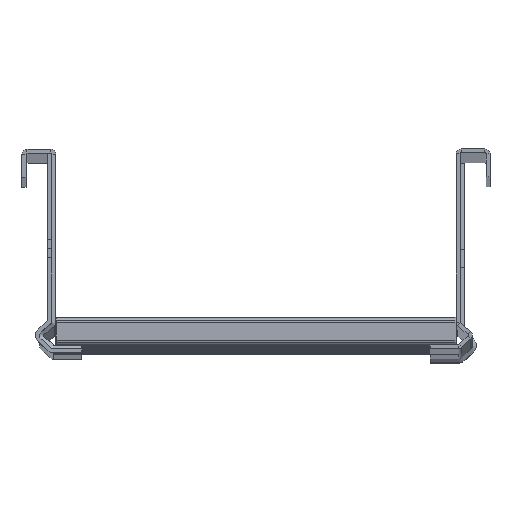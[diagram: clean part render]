
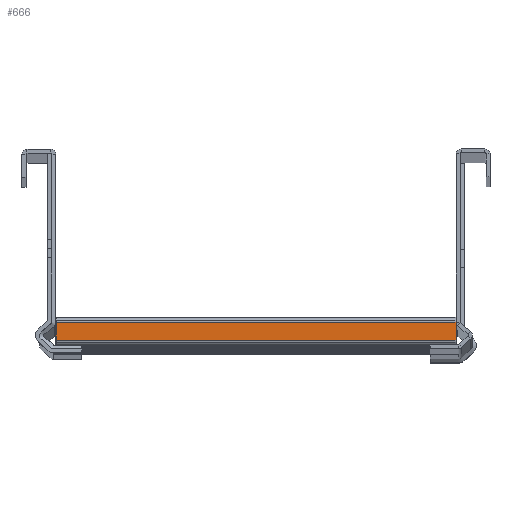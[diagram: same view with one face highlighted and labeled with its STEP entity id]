
A CAD part, top view. The second image highlights one B-rep face of the part: STEP entity #666.
In plain terms, the highlighted planar face has unit normal (0, 0, 1) as drawn and (-1, 0, 0) by its records, which use the part's own axes.
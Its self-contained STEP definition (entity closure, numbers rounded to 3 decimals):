
#31 = VECTOR ( 'NONE', #3273, 1000. ) ;
#155 = DIRECTION ( 'NONE',  ( 0., -1., 0. ) ) ;
#266 = EDGE_CURVE ( 'NONE', #903, #1354, #3992, .T. ) ;
#336 = CARTESIAN_POINT ( 'NONE',  ( -17.5, 2.5, 100. ) ) ;
#357 = DIRECTION ( 'NONE',  ( 0., 0., -1. ) ) ;
#492 = EDGE_LOOP ( 'NONE', ( #2376, #770, #4216, #3393 ) ) ;
#623 = CARTESIAN_POINT ( 'NONE',  ( -17.5, 14., 100. ) ) ;
#633 = VERTEX_POINT ( 'NONE', #1432 ) ;
#666 = ADVANCED_FACE ( 'NONE', ( #3566 ), #2258, .F. ) ;
#770 = ORIENTED_EDGE ( 'NONE', *, *, #2392, .F. ) ;
#903 = VERTEX_POINT ( 'NONE', #2303 ) ;
#1354 = VERTEX_POINT ( 'NONE', #3306 ) ;
#1402 = DIRECTION ( 'NONE',  ( 1., 0., 0. ) ) ;
#1432 = CARTESIAN_POINT ( 'NONE',  ( -17.5, 2.5, -100. ) ) ;
#1582 = CARTESIAN_POINT ( 'NONE',  ( -17.5, 14., -100. ) ) ;
#1947 = LINE ( 'NONE', #1582, #31 ) ;
#2103 = EDGE_CURVE ( 'NONE', #903, #4363, #2240, .T. ) ;
#2240 = LINE ( 'NONE', #3915, #4142 ) ;
#2258 = PLANE ( 'NONE',  #3198 ) ;
#2303 = CARTESIAN_POINT ( 'NONE',  ( -17.5, 11.5, 100. ) ) ;
#2376 = ORIENTED_EDGE ( 'NONE', *, *, #3464, .T. ) ;
#2392 = EDGE_CURVE ( 'NONE', #4363, #633, #5016, .T. ) ;
#3198 = AXIS2_PLACEMENT_3D ( 'NONE', #623, #1402, #3534 ) ;
#3273 = DIRECTION ( 'NONE',  ( 0., -1., 0. ) ) ;
#3306 = CARTESIAN_POINT ( 'NONE',  ( -17.5, 11.5, -100. ) ) ;
#3393 = ORIENTED_EDGE ( 'NONE', *, *, #266, .T. ) ;
#3464 = EDGE_CURVE ( 'NONE', #1354, #633, #1947, .T. ) ;
#3534 = DIRECTION ( 'NONE',  ( 0., 0., -1. ) ) ;
#3566 = FACE_OUTER_BOUND ( 'NONE', #492, .T. ) ;
#3792 = CARTESIAN_POINT ( 'NONE',  ( -17.5, 2.5, 100. ) ) ;
#3915 = CARTESIAN_POINT ( 'NONE',  ( -17.5, 14., 100. ) ) ;
#3992 = LINE ( 'NONE', #4402, #4077 ) ;
#4077 = VECTOR ( 'NONE', #5361, 1000. ) ;
#4142 = VECTOR ( 'NONE', #155, 1000. ) ;
#4162 = VECTOR ( 'NONE', #357, 1000. ) ;
#4216 = ORIENTED_EDGE ( 'NONE', *, *, #2103, .F. ) ;
#4363 = VERTEX_POINT ( 'NONE', #336 ) ;
#4402 = CARTESIAN_POINT ( 'NONE',  ( -17.5, 11.5, 100. ) ) ;
#5016 = LINE ( 'NONE', #3792, #4162 ) ;
#5361 = DIRECTION ( 'NONE',  ( 0., 0., -1. ) ) ;
